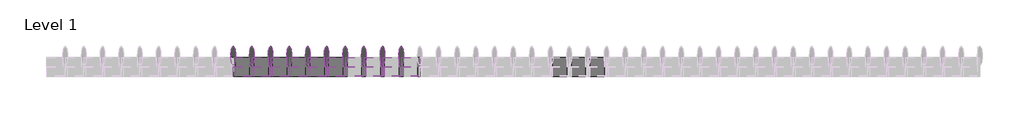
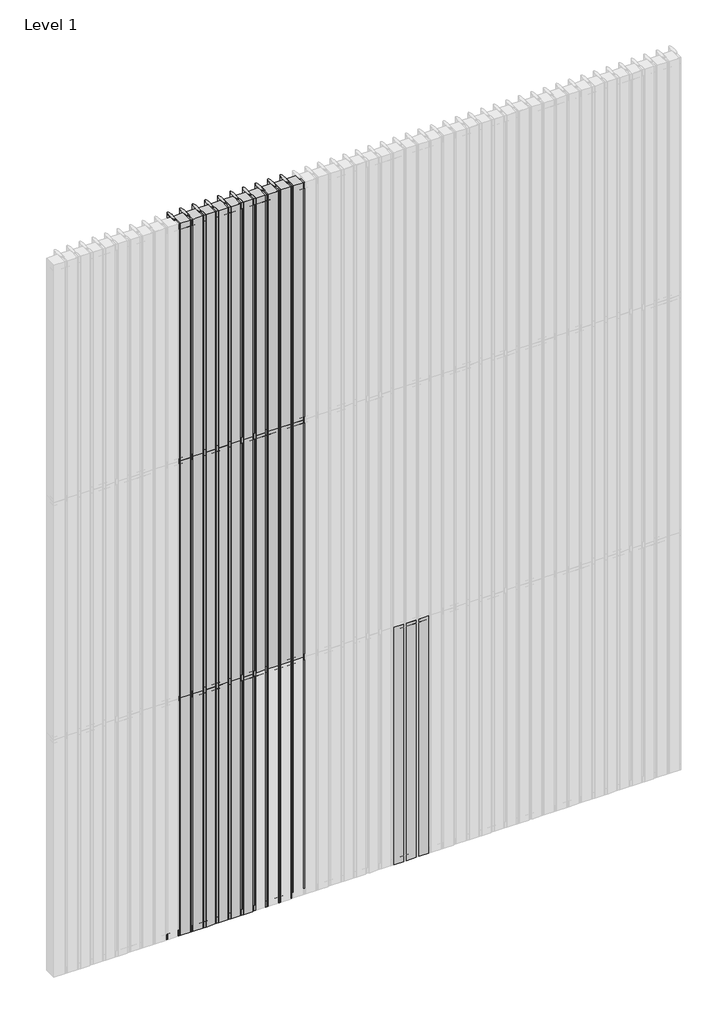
# One storey, part 2 of 6: 70 members, 59 plates.
"""IFC4 building model written with IfcOpenShell, lengths in millimetres."""

from ifc_helpers import new_model, si_unit, origin, place, context, project, spatial, transform, mapped, element, save
from components import rectangular_mullion_31e9810d, rectangular_mullion_cddbc660, rectangular_mullion_a3e25429, rectangular_mullion_ae434dd9, empty_system_panel_empty_de76a839, empty_system_panel_empty_5411477d, empty_system_panel_empty_c50988b4

model = new_model("IFC4")

# Units and contexts
model_context = context("Model", 3, world=origin())
ifc_project = project(units=[si_unit("LENGTHUNIT", "METRE", prefix="MILLI")], contexts=[model_context])

# Site, building, storey
site = spatial("IfcSite", under=ifc_project)
building = spatial("IfcBuilding", under=site)
storey = spatial("IfcBuildingStorey", under=building, Name="Level 1", Elevation=0.0)

# Members
placement = place(None, origin())
rectangular_mullion_shape = rectangular_mullion_31e9810d(model_context)
element("IfcMember", 1, ObjectType="Rectangular Mullion : RSen_21_CWM_blade - 100 ellips - 0°_gen_duco projects", at=placement, inside=storey, context=model_context, shape_type="MappedRepresentation", body=[
    mapped(rectangular_mullion_shape, transform((1900.0, 3000.0, 0.0), x_axis=(-1.0, 0.0, 0.0), y_axis=(0.0, 1.0, 0.0), z_axis=(0.0, 0.0, -1.0))),
])
element("IfcMember", 2, ObjectType="Rectangular Mullion : RSen_21_CWM_blade - 100 ellips - 0°_gen_duco projects", at=placement, inside=storey, context=model_context, shape_type="MappedRepresentation", body=[
    mapped(rectangular_mullion_shape, transform((1800.0, 3000.0, 0.0), x_axis=(-1.0, 0.0, 0.0), y_axis=(0.0, 1.0, 0.0), z_axis=(0.0, 0.0, -1.0))),
])
element("IfcMember", 3, ObjectType="Rectangular Mullion : RSen_21_CWM_blade - 100 ellips - 0°_gen_duco projects", at=placement, inside=storey, context=model_context, shape_type="MappedRepresentation", body=[
    mapped(rectangular_mullion_shape, transform((1700.0, 3000.0, 0.0), x_axis=(-1.0, 0.0, 0.0), y_axis=(0.0, 1.0, 0.0), z_axis=(0.0, 0.0, -1.0))),
])
element("IfcMember", 4, ObjectType="Rectangular Mullion : RSen_21_CWM_blade - 100 ellips - 0°_gen_duco projects", at=placement, inside=storey, context=model_context, shape_type="MappedRepresentation", body=[
    mapped(rectangular_mullion_shape, transform((1600.0, 3000.0, 0.0), x_axis=(-1.0, 0.0, 0.0), y_axis=(0.0, 1.0, 0.0), z_axis=(0.0, 0.0, -1.0))),
])
element("IfcMember", 5, ObjectType="Rectangular Mullion : RSen_21_CWM_blade - 100 ellips - 0°_gen_duco projects", at=placement, inside=storey, context=model_context, shape_type="MappedRepresentation", body=[
    mapped(rectangular_mullion_shape, transform((1500.0, 3000.0, 0.0), x_axis=(-1.0, 0.0, 0.0), y_axis=(0.0, 1.0, 0.0), z_axis=(0.0, 0.0, -1.0))),
])
element("IfcMember", 6, ObjectType="Rectangular Mullion : RSen_21_CWM_blade - 100 ellips - 0°_gen_duco projects", at=placement, inside=storey, context=model_context, shape_type="MappedRepresentation", body=[
    mapped(rectangular_mullion_shape, transform((1400.0, 3000.0, 0.0), x_axis=(-1.0, 0.0, 0.0), y_axis=(0.0, 1.0, 0.0), z_axis=(0.0, 0.0, -1.0))),
])
element("IfcMember", 7, ObjectType="Rectangular Mullion : RSen_21_CWM_blade - 100 ellips - 0°_gen_duco projects", at=placement, inside=storey, context=model_context, shape_type="MappedRepresentation", body=[
    mapped(rectangular_mullion_shape, transform((1300.0, 3000.0, 0.0), x_axis=(-1.0, 0.0, 0.0), y_axis=(0.0, 1.0, 0.0), z_axis=(0.0, 0.0, -1.0))),
])
element("IfcMember", 8, ObjectType="Rectangular Mullion : RSen_21_CWM_blade - 100 ellips - 0°_gen_duco projects", at=placement, inside=storey, context=model_context, shape_type="MappedRepresentation", body=[
    mapped(rectangular_mullion_shape, transform((1200.0, 3000.0, 0.0), x_axis=(-1.0, 0.0, 0.0), y_axis=(0.0, 1.0, 0.0), z_axis=(0.0, 0.0, -1.0))),
])
element("IfcMember", 9, ObjectType="Rectangular Mullion : RSen_21_CWM_blade - 100 ellips - 0°_gen_duco projects", at=placement, inside=storey, context=model_context, shape_type="MappedRepresentation", body=[
    mapped(rectangular_mullion_shape, transform((1100.0, 3000.0, 0.0), x_axis=(-1.0, 0.0, 0.0), y_axis=(0.0, 1.0, 0.0), z_axis=(0.0, 0.0, -1.0))),
])
element("IfcMember", 10, ObjectType="Rectangular Mullion : RSen_21_CWM_blade - 100 ellips - 0°_gen_duco projects", at=placement, inside=storey, context=model_context, shape_type="MappedRepresentation", body=[
    mapped(rectangular_mullion_shape, transform((1000.0, 3000.0, 0.0), x_axis=(-1.0, 0.0, 0.0), y_axis=(0.0, 1.0, 0.0), z_axis=(0.0, 0.0, -1.0))),
])
element("IfcMember", 11, ObjectType="Rectangular Mullion : RSen_21_CWM_blade - 100 ellips - 0°_gen_duco projects", at=placement, inside=storey, context=model_context, shape_type="MappedRepresentation", body=[
    mapped(rectangular_mullion_shape, transform((1900.0, 3000.0, 2000.0), x_axis=(-1.0, 0.0, 0.0), y_axis=(0.0, 1.0, 0.0), z_axis=(0.0, 0.0, -1.0))),
])
element("IfcMember", 12, ObjectType="Rectangular Mullion : RSen_21_CWM_blade - 100 ellips - 0°_gen_duco projects", at=placement, inside=storey, context=model_context, shape_type="MappedRepresentation", body=[
    mapped(rectangular_mullion_shape, transform((1800.0, 3000.0, 2000.0), x_axis=(-1.0, 0.0, 0.0), y_axis=(0.0, 1.0, 0.0), z_axis=(0.0, 0.0, -1.0))),
])
element("IfcMember", 13, ObjectType="Rectangular Mullion : RSen_21_CWM_blade - 100 ellips - 0°_gen_duco projects", at=placement, inside=storey, context=model_context, shape_type="MappedRepresentation", body=[
    mapped(rectangular_mullion_shape, transform((1700.0, 3000.0, 2000.0), x_axis=(-1.0, 0.0, 0.0), y_axis=(0.0, 1.0, 0.0), z_axis=(0.0, 0.0, -1.0))),
])
element("IfcMember", 14, ObjectType="Rectangular Mullion : RSen_21_CWM_blade - 100 ellips - 0°_gen_duco projects", at=placement, inside=storey, context=model_context, shape_type="MappedRepresentation", body=[
    mapped(rectangular_mullion_shape, transform((1600.0, 3000.0, 2000.0), x_axis=(-1.0, 0.0, 0.0), y_axis=(0.0, 1.0, 0.0), z_axis=(0.0, 0.0, -1.0))),
])
element("IfcMember", 15, ObjectType="Rectangular Mullion : RSen_21_CWM_blade - 100 ellips - 0°_gen_duco projects", at=placement, inside=storey, context=model_context, shape_type="MappedRepresentation", body=[
    mapped(rectangular_mullion_shape, transform((1500.0, 3000.0, 2000.0), x_axis=(-1.0, 0.0, 0.0), y_axis=(0.0, 1.0, 0.0), z_axis=(0.0, 0.0, -1.0))),
])
element("IfcMember", 16, ObjectType="Rectangular Mullion : RSen_21_CWM_blade - 100 ellips - 0°_gen_duco projects", at=placement, inside=storey, context=model_context, shape_type="MappedRepresentation", body=[
    mapped(rectangular_mullion_shape, transform((1400.0, 3000.0, 2000.0), x_axis=(-1.0, 0.0, 0.0), y_axis=(0.0, 1.0, 0.0), z_axis=(0.0, 0.0, -1.0))),
])
element("IfcMember", 17, ObjectType="Rectangular Mullion : RSen_21_CWM_blade - 100 ellips - 0°_gen_duco projects", at=placement, inside=storey, context=model_context, shape_type="MappedRepresentation", body=[
    mapped(rectangular_mullion_shape, transform((1300.0, 3000.0, 2000.0), x_axis=(-1.0, 0.0, 0.0), y_axis=(0.0, 1.0, 0.0), z_axis=(0.0, 0.0, -1.0))),
])
element("IfcMember", 18, ObjectType="Rectangular Mullion : RSen_21_CWM_blade - 100 ellips - 0°_gen_duco projects", at=placement, inside=storey, context=model_context, shape_type="MappedRepresentation", body=[
    mapped(rectangular_mullion_shape, transform((1200.0, 3000.0, 2000.0), x_axis=(-1.0, 0.0, 0.0), y_axis=(0.0, 1.0, 0.0), z_axis=(0.0, 0.0, -1.0))),
])
element("IfcMember", 19, ObjectType="Rectangular Mullion : RSen_21_CWM_blade - 100 ellips - 0°_gen_duco projects", at=placement, inside=storey, context=model_context, shape_type="MappedRepresentation", body=[
    mapped(rectangular_mullion_shape, transform((1100.0, 3000.0, 2000.0), x_axis=(-1.0, 0.0, 0.0), y_axis=(0.0, 1.0, 0.0), z_axis=(0.0, 0.0, -1.0))),
])
element("IfcMember", 20, ObjectType="Rectangular Mullion : RSen_21_CWM_blade - 100 ellips - 0°_gen_duco projects", at=placement, inside=storey, context=model_context, shape_type="MappedRepresentation", body=[
    mapped(rectangular_mullion_shape, transform((1000.0, 3000.0, 2000.0), x_axis=(-1.0, 0.0, 0.0), y_axis=(0.0, 1.0, 0.0), z_axis=(0.0, 0.0, -1.0))),
])
element("IfcMember", 21, ObjectType="Rectangular Mullion : RSen_21_CWM_blade - 100 ellips - 0°_gen_duco projects", at=placement, inside=storey, context=model_context, shape_type="MappedRepresentation", body=[
    mapped(rectangular_mullion_shape, transform((1900.0, 3000.0, 4000.0), x_axis=(-1.0, 0.0, 0.0), y_axis=(0.0, 1.0, 0.0), z_axis=(0.0, 0.0, -1.0))),
])
element("IfcMember", 22, ObjectType="Rectangular Mullion : RSen_21_CWM_blade - 100 ellips - 0°_gen_duco projects", at=placement, inside=storey, context=model_context, shape_type="MappedRepresentation", body=[
    mapped(rectangular_mullion_shape, transform((1800.0, 3000.0, 4000.0), x_axis=(-1.0, 0.0, 0.0), y_axis=(0.0, 1.0, 0.0), z_axis=(0.0, 0.0, -1.0))),
])
element("IfcMember", 23, ObjectType="Rectangular Mullion : RSen_21_CWM_blade - 100 ellips - 0°_gen_duco projects", at=placement, inside=storey, context=model_context, shape_type="MappedRepresentation", body=[
    mapped(rectangular_mullion_shape, transform((1700.0, 3000.0, 4000.0), x_axis=(-1.0, 0.0, 0.0), y_axis=(0.0, 1.0, 0.0), z_axis=(0.0, 0.0, -1.0))),
])
element("IfcMember", 24, ObjectType="Rectangular Mullion : RSen_21_CWM_blade - 100 ellips - 0°_gen_duco projects", at=placement, inside=storey, context=model_context, shape_type="MappedRepresentation", body=[
    mapped(rectangular_mullion_shape, transform((1600.0, 3000.0, 4000.0), x_axis=(-1.0, 0.0, 0.0), y_axis=(0.0, 1.0, 0.0), z_axis=(0.0, 0.0, -1.0))),
])
element("IfcMember", 25, ObjectType="Rectangular Mullion : RSen_21_CWM_blade - 100 ellips - 0°_gen_duco projects", at=placement, inside=storey, context=model_context, shape_type="MappedRepresentation", body=[
    mapped(rectangular_mullion_shape, transform((1500.0, 3000.0, 4000.0), x_axis=(-1.0, 0.0, 0.0), y_axis=(0.0, 1.0, 0.0), z_axis=(0.0, 0.0, -1.0))),
])
element("IfcMember", 26, ObjectType="Rectangular Mullion : RSen_21_CWM_blade - 100 ellips - 0°_gen_duco projects", at=placement, inside=storey, context=model_context, shape_type="MappedRepresentation", body=[
    mapped(rectangular_mullion_shape, transform((1400.0, 3000.0, 4000.0), x_axis=(-1.0, 0.0, 0.0), y_axis=(0.0, 1.0, 0.0), z_axis=(0.0, 0.0, -1.0))),
])
element("IfcMember", 27, ObjectType="Rectangular Mullion : RSen_21_CWM_blade - 100 ellips - 0°_gen_duco projects", at=placement, inside=storey, context=model_context, shape_type="MappedRepresentation", body=[
    mapped(rectangular_mullion_shape, transform((1300.0, 3000.0, 4000.0), x_axis=(-1.0, 0.0, 0.0), y_axis=(0.0, 1.0, 0.0), z_axis=(0.0, 0.0, -1.0))),
])
element("IfcMember", 28, ObjectType="Rectangular Mullion : RSen_21_CWM_blade - 100 ellips - 0°_gen_duco projects", at=placement, inside=storey, context=model_context, shape_type="MappedRepresentation", body=[
    mapped(rectangular_mullion_shape, transform((1200.0, 3000.0, 4000.0), x_axis=(-1.0, 0.0, 0.0), y_axis=(0.0, 1.0, 0.0), z_axis=(0.0, 0.0, -1.0))),
])
element("IfcMember", 29, ObjectType="Rectangular Mullion : RSen_21_CWM_blade - 100 ellips - 0°_gen_duco projects", at=placement, inside=storey, context=model_context, shape_type="MappedRepresentation", body=[
    mapped(rectangular_mullion_shape, transform((1100.0, 3000.0, 4000.0), x_axis=(-1.0, 0.0, 0.0), y_axis=(0.0, 1.0, 0.0), z_axis=(0.0, 0.0, -1.0))),
])
element("IfcMember", 30, ObjectType="Rectangular Mullion : RSen_21_CWM_blade - 100 ellips - 0°_gen_duco projects", at=placement, inside=storey, context=model_context, shape_type="MappedRepresentation", body=[
    mapped(rectangular_mullion_shape, transform((1000.0, 3000.0, 4000.0), x_axis=(-1.0, 0.0, 0.0), y_axis=(0.0, 1.0, 0.0), z_axis=(0.0, 0.0, -1.0))),
])
rectangular_mullion_2_shape = rectangular_mullion_cddbc660(model_context)
element("IfcMember", 31, ObjectType="Rectangular Mullion : RSen_21_CWM_support profile 50x50 - left_gen_duco projects", at=placement, inside=storey, context=model_context, shape_type="MappedRepresentation", body=[
    mapped(rectangular_mullion_2_shape, transform((1900.0, 3000.0, 6000.0), x_axis=(0.0, 0.0, 1.0), y_axis=(0.0, 1.0, 0.0), z_axis=(-1.0, 0.0, 0.0))),
])
element("IfcMember", 32, ObjectType="Rectangular Mullion : RSen_21_CWM_support profile 50x50 - left_gen_duco projects", at=placement, inside=storey, context=model_context, shape_type="MappedRepresentation", body=[
    mapped(rectangular_mullion_2_shape, transform((1800.0, 3000.0, 6000.0), x_axis=(0.0, 0.0, 1.0), y_axis=(0.0, 1.0, 0.0), z_axis=(-1.0, 0.0, 0.0))),
])
element("IfcMember", 33, ObjectType="Rectangular Mullion : RSen_21_CWM_support profile 50x50 - left_gen_duco projects", at=placement, inside=storey, context=model_context, shape_type="MappedRepresentation", body=[
    mapped(rectangular_mullion_2_shape, transform((1700.0, 3000.0, 6000.0), x_axis=(0.0, 0.0, 1.0), y_axis=(0.0, 1.0, 0.0), z_axis=(-1.0, 0.0, 0.0))),
])
element("IfcMember", 34, ObjectType="Rectangular Mullion : RSen_21_CWM_support profile 50x50 - left_gen_duco projects", at=placement, inside=storey, context=model_context, shape_type="MappedRepresentation", body=[
    mapped(rectangular_mullion_2_shape, transform((1600.0, 3000.0, 6000.0), x_axis=(0.0, 0.0, 1.0), y_axis=(0.0, 1.0, 0.0), z_axis=(-1.0, 0.0, 0.0))),
])
element("IfcMember", 35, ObjectType="Rectangular Mullion : RSen_21_CWM_support profile 50x50 - left_gen_duco projects", at=placement, inside=storey, context=model_context, shape_type="MappedRepresentation", body=[
    mapped(rectangular_mullion_2_shape, transform((1500.0, 3000.0, 6000.0), x_axis=(0.0, 0.0, 1.0), y_axis=(0.0, 1.0, 0.0), z_axis=(-1.0, 0.0, 0.0))),
])
element("IfcMember", 36, ObjectType="Rectangular Mullion : RSen_21_CWM_support profile 50x50 - left_gen_duco projects", at=placement, inside=storey, context=model_context, shape_type="MappedRepresentation", body=[
    mapped(rectangular_mullion_2_shape, transform((1400.0, 3000.0, 6000.0), x_axis=(0.0, 0.0, 1.0), y_axis=(0.0, 1.0, 0.0), z_axis=(-1.0, 0.0, 0.0))),
])
element("IfcMember", 37, ObjectType="Rectangular Mullion : RSen_21_CWM_support profile 50x50 - left_gen_duco projects", at=placement, inside=storey, context=model_context, shape_type="MappedRepresentation", body=[
    mapped(rectangular_mullion_2_shape, transform((1300.0, 3000.0, 6000.0), x_axis=(0.0, 0.0, 1.0), y_axis=(0.0, 1.0, 0.0), z_axis=(-1.0, 0.0, 0.0))),
])
element("IfcMember", 38, ObjectType="Rectangular Mullion : RSen_21_CWM_support profile 50x50 - left_gen_duco projects", at=placement, inside=storey, context=model_context, shape_type="MappedRepresentation", body=[
    mapped(rectangular_mullion_2_shape, transform((1200.0, 3000.0, 6000.0), x_axis=(0.0, 0.0, 1.0), y_axis=(0.0, 1.0, 0.0), z_axis=(-1.0, 0.0, 0.0))),
])
element("IfcMember", 39, ObjectType="Rectangular Mullion : RSen_21_CWM_support profile 50x50 - left_gen_duco projects", at=placement, inside=storey, context=model_context, shape_type="MappedRepresentation", body=[
    mapped(rectangular_mullion_2_shape, transform((1100.0, 3000.0, 6000.0), x_axis=(0.0, 0.0, 1.0), y_axis=(0.0, 1.0, 0.0), z_axis=(-1.0, 0.0, 0.0))),
])
element("IfcMember", 40, ObjectType="Rectangular Mullion : RSen_21_CWM_support profile 50x50 - left_gen_duco projects", at=placement, inside=storey, context=model_context, shape_type="MappedRepresentation", body=[
    mapped(rectangular_mullion_2_shape, transform((1000.0, 3000.0, 6000.0), x_axis=(0.0, 0.0, 1.0), y_axis=(0.0, 1.0, 0.0), z_axis=(-1.0, 0.0, 0.0))),
])
rectangular_mullion_3_shape = rectangular_mullion_a3e25429(model_context)
element("IfcMember", 41, ObjectType="Rectangular Mullion : RSen_21_CWM_support profile 50x50 - right_gen_duco projects", at=placement, inside=storey, context=model_context, shape_type="MappedRepresentation", body=[
    mapped(rectangular_mullion_3_shape, transform((1900.0, 3000.0, 0.0), x_axis=(0.0, 0.0, -1.0), y_axis=(0.0, 1.0, 0.0), z_axis=(1.0, 0.0, 0.0))),
])
element("IfcMember", 42, ObjectType="Rectangular Mullion : RSen_21_CWM_support profile 50x50 - right_gen_duco projects", at=placement, inside=storey, context=model_context, shape_type="MappedRepresentation", body=[
    mapped(rectangular_mullion_3_shape, transform((1800.0, 3000.0, 0.0), x_axis=(0.0, 0.0, -1.0), y_axis=(0.0, 1.0, 0.0), z_axis=(1.0, 0.0, 0.0))),
])
element("IfcMember", 43, ObjectType="Rectangular Mullion : RSen_21_CWM_support profile 50x50 - right_gen_duco projects", at=placement, inside=storey, context=model_context, shape_type="MappedRepresentation", body=[
    mapped(rectangular_mullion_3_shape, transform((1700.0, 3000.0, 0.0), x_axis=(0.0, 0.0, -1.0), y_axis=(0.0, 1.0, 0.0), z_axis=(1.0, 0.0, 0.0))),
])
element("IfcMember", 44, ObjectType="Rectangular Mullion : RSen_21_CWM_support profile 50x50 - right_gen_duco projects", at=placement, inside=storey, context=model_context, shape_type="MappedRepresentation", body=[
    mapped(rectangular_mullion_3_shape, transform((1600.0, 3000.0, 0.0), x_axis=(0.0, 0.0, -1.0), y_axis=(0.0, 1.0, 0.0), z_axis=(1.0, 0.0, 0.0))),
])
element("IfcMember", 45, ObjectType="Rectangular Mullion : RSen_21_CWM_support profile 50x50 - right_gen_duco projects", at=placement, inside=storey, context=model_context, shape_type="MappedRepresentation", body=[
    mapped(rectangular_mullion_3_shape, transform((1500.0, 3000.0, 0.0), x_axis=(0.0, 0.0, -1.0), y_axis=(0.0, 1.0, 0.0), z_axis=(1.0, 0.0, 0.0))),
])
element("IfcMember", 46, ObjectType="Rectangular Mullion : RSen_21_CWM_support profile 50x50 - right_gen_duco projects", at=placement, inside=storey, context=model_context, shape_type="MappedRepresentation", body=[
    mapped(rectangular_mullion_3_shape, transform((1400.0, 3000.0, 0.0), x_axis=(0.0, 0.0, -1.0), y_axis=(0.0, 1.0, 0.0), z_axis=(1.0, 0.0, 0.0))),
])
element("IfcMember", 47, ObjectType="Rectangular Mullion : RSen_21_CWM_support profile 50x50 - right_gen_duco projects", at=placement, inside=storey, context=model_context, shape_type="MappedRepresentation", body=[
    mapped(rectangular_mullion_3_shape, transform((1300.0, 3000.0, 0.0), x_axis=(0.0, 0.0, -1.0), y_axis=(0.0, 1.0, 0.0), z_axis=(1.0, 0.0, 0.0))),
])
element("IfcMember", 48, ObjectType="Rectangular Mullion : RSen_21_CWM_support profile 50x50 - right_gen_duco projects", at=placement, inside=storey, context=model_context, shape_type="MappedRepresentation", body=[
    mapped(rectangular_mullion_3_shape, transform((1200.0, 3000.0, 0.0), x_axis=(0.0, 0.0, -1.0), y_axis=(0.0, 1.0, 0.0), z_axis=(1.0, 0.0, 0.0))),
])
element("IfcMember", 49, ObjectType="Rectangular Mullion : RSen_21_CWM_support profile 50x50 - right_gen_duco projects", at=placement, inside=storey, context=model_context, shape_type="MappedRepresentation", body=[
    mapped(rectangular_mullion_3_shape, transform((1100.0, 3000.0, 0.0), x_axis=(0.0, 0.0, -1.0), y_axis=(0.0, 1.0, 0.0), z_axis=(1.0, 0.0, 0.0))),
])
element("IfcMember", 50, ObjectType="Rectangular Mullion : RSen_21_CWM_support profile 50x50 - right_gen_duco projects", at=placement, inside=storey, context=model_context, shape_type="MappedRepresentation", body=[
    mapped(rectangular_mullion_3_shape, transform((1000.0, 3000.0, 0.0), x_axis=(0.0, 0.0, -1.0), y_axis=(0.0, 1.0, 0.0), z_axis=(1.0, 0.0, 0.0))),
])
rectangular_mullion_4_shape = rectangular_mullion_ae434dd9(model_context)
element("IfcMember", 51, ObjectType="Rectangular Mullion : RSen_21_CWM_support profile 50x50_gen_duco projects", at=placement, inside=storey, context=model_context, shape_type="MappedRepresentation", body=[
    mapped(rectangular_mullion_4_shape, transform((1900.0, 3000.0, 2000.0), x_axis=(0.0, 0.0, 1.0), y_axis=(0.0, 1.0, 0.0), z_axis=(-1.0, 0.0, 0.0))),
])
element("IfcMember", 52, ObjectType="Rectangular Mullion : RSen_21_CWM_support profile 50x50_gen_duco projects", at=placement, inside=storey, context=model_context, shape_type="MappedRepresentation", body=[
    mapped(rectangular_mullion_4_shape, transform((1800.0, 3000.0, 2000.0), x_axis=(0.0, 0.0, 1.0), y_axis=(0.0, 1.0, 0.0), z_axis=(-1.0, 0.0, 0.0))),
])
element("IfcMember", 53, ObjectType="Rectangular Mullion : RSen_21_CWM_support profile 50x50_gen_duco projects", at=placement, inside=storey, context=model_context, shape_type="MappedRepresentation", body=[
    mapped(rectangular_mullion_4_shape, transform((1700.0, 3000.0, 2000.0), x_axis=(0.0, 0.0, 1.0), y_axis=(0.0, 1.0, 0.0), z_axis=(-1.0, 0.0, 0.0))),
])
element("IfcMember", 54, ObjectType="Rectangular Mullion : RSen_21_CWM_support profile 50x50_gen_duco projects", at=placement, inside=storey, context=model_context, shape_type="MappedRepresentation", body=[
    mapped(rectangular_mullion_4_shape, transform((1600.0, 3000.0, 2000.0), x_axis=(0.0, 0.0, 1.0), y_axis=(0.0, 1.0, 0.0), z_axis=(-1.0, 0.0, 0.0))),
])
element("IfcMember", 55, ObjectType="Rectangular Mullion : RSen_21_CWM_support profile 50x50_gen_duco projects", at=placement, inside=storey, context=model_context, shape_type="MappedRepresentation", body=[
    mapped(rectangular_mullion_4_shape, transform((1500.0, 3000.0, 2000.0), x_axis=(0.0, 0.0, 1.0), y_axis=(0.0, 1.0, 0.0), z_axis=(-1.0, 0.0, 0.0))),
])
element("IfcMember", 56, ObjectType="Rectangular Mullion : RSen_21_CWM_support profile 50x50_gen_duco projects", at=placement, inside=storey, context=model_context, shape_type="MappedRepresentation", body=[
    mapped(rectangular_mullion_4_shape, transform((1400.0, 3000.0, 2000.0), x_axis=(0.0, 0.0, 1.0), y_axis=(0.0, 1.0, 0.0), z_axis=(-1.0, 0.0, 0.0))),
])
element("IfcMember", 57, ObjectType="Rectangular Mullion : RSen_21_CWM_support profile 50x50_gen_duco projects", at=placement, inside=storey, context=model_context, shape_type="MappedRepresentation", body=[
    mapped(rectangular_mullion_4_shape, transform((1300.0, 3000.0, 2000.0), x_axis=(0.0, 0.0, 1.0), y_axis=(0.0, 1.0, 0.0), z_axis=(-1.0, 0.0, 0.0))),
])
element("IfcMember", 58, ObjectType="Rectangular Mullion : RSen_21_CWM_support profile 50x50_gen_duco projects", at=placement, inside=storey, context=model_context, shape_type="MappedRepresentation", body=[
    mapped(rectangular_mullion_4_shape, transform((1200.0, 3000.0, 2000.0), x_axis=(0.0, 0.0, 1.0), y_axis=(0.0, 1.0, 0.0), z_axis=(-1.0, 0.0, 0.0))),
])
element("IfcMember", 59, ObjectType="Rectangular Mullion : RSen_21_CWM_support profile 50x50_gen_duco projects", at=placement, inside=storey, context=model_context, shape_type="MappedRepresentation", body=[
    mapped(rectangular_mullion_4_shape, transform((1100.0, 3000.0, 2000.0), x_axis=(0.0, 0.0, 1.0), y_axis=(0.0, 1.0, 0.0), z_axis=(-1.0, 0.0, 0.0))),
])
element("IfcMember", 60, ObjectType="Rectangular Mullion : RSen_21_CWM_support profile 50x50_gen_duco projects", at=placement, inside=storey, context=model_context, shape_type="MappedRepresentation", body=[
    mapped(rectangular_mullion_4_shape, transform((1000.0, 3000.0, 2000.0), x_axis=(0.0, 0.0, 1.0), y_axis=(0.0, 1.0, 0.0), z_axis=(-1.0, 0.0, 0.0))),
])
element("IfcMember", 61, ObjectType="Rectangular Mullion : RSen_21_CWM_support profile 50x50_gen_duco projects", at=placement, inside=storey, context=model_context, shape_type="MappedRepresentation", body=[
    mapped(rectangular_mullion_4_shape, transform((1900.0, 3000.0, 4000.0), x_axis=(0.0, 0.0, 1.0), y_axis=(0.0, 1.0, 0.0), z_axis=(-1.0, 0.0, 0.0))),
])
element("IfcMember", 62, ObjectType="Rectangular Mullion : RSen_21_CWM_support profile 50x50_gen_duco projects", at=placement, inside=storey, context=model_context, shape_type="MappedRepresentation", body=[
    mapped(rectangular_mullion_4_shape, transform((1800.0, 3000.0, 4000.0), x_axis=(0.0, 0.0, 1.0), y_axis=(0.0, 1.0, 0.0), z_axis=(-1.0, 0.0, 0.0))),
])
element("IfcMember", 63, ObjectType="Rectangular Mullion : RSen_21_CWM_support profile 50x50_gen_duco projects", at=placement, inside=storey, context=model_context, shape_type="MappedRepresentation", body=[
    mapped(rectangular_mullion_4_shape, transform((1700.0, 3000.0, 4000.0), x_axis=(0.0, 0.0, 1.0), y_axis=(0.0, 1.0, 0.0), z_axis=(-1.0, 0.0, 0.0))),
])
element("IfcMember", 64, ObjectType="Rectangular Mullion : RSen_21_CWM_support profile 50x50_gen_duco projects", at=placement, inside=storey, context=model_context, shape_type="MappedRepresentation", body=[
    mapped(rectangular_mullion_4_shape, transform((1600.0, 3000.0, 4000.0), x_axis=(0.0, 0.0, 1.0), y_axis=(0.0, 1.0, 0.0), z_axis=(-1.0, 0.0, 0.0))),
])
element("IfcMember", 65, ObjectType="Rectangular Mullion : RSen_21_CWM_support profile 50x50_gen_duco projects", at=placement, inside=storey, context=model_context, shape_type="MappedRepresentation", body=[
    mapped(rectangular_mullion_4_shape, transform((1500.0, 3000.0, 4000.0), x_axis=(0.0, 0.0, 1.0), y_axis=(0.0, 1.0, 0.0), z_axis=(-1.0, 0.0, 0.0))),
])
element("IfcMember", 66, ObjectType="Rectangular Mullion : RSen_21_CWM_support profile 50x50_gen_duco projects", at=placement, inside=storey, context=model_context, shape_type="MappedRepresentation", body=[
    mapped(rectangular_mullion_4_shape, transform((1400.0, 3000.0, 4000.0), x_axis=(0.0, 0.0, 1.0), y_axis=(0.0, 1.0, 0.0), z_axis=(-1.0, 0.0, 0.0))),
])
element("IfcMember", 67, ObjectType="Rectangular Mullion : RSen_21_CWM_support profile 50x50_gen_duco projects", at=placement, inside=storey, context=model_context, shape_type="MappedRepresentation", body=[
    mapped(rectangular_mullion_4_shape, transform((1300.0, 3000.0, 4000.0), x_axis=(0.0, 0.0, 1.0), y_axis=(0.0, 1.0, 0.0), z_axis=(-1.0, 0.0, 0.0))),
])
element("IfcMember", 68, ObjectType="Rectangular Mullion : RSen_21_CWM_support profile 50x50_gen_duco projects", at=placement, inside=storey, context=model_context, shape_type="MappedRepresentation", body=[
    mapped(rectangular_mullion_4_shape, transform((1200.0, 3000.0, 4000.0), x_axis=(0.0, 0.0, 1.0), y_axis=(0.0, 1.0, 0.0), z_axis=(-1.0, 0.0, 0.0))),
])
element("IfcMember", 69, ObjectType="Rectangular Mullion : RSen_21_CWM_support profile 50x50_gen_duco projects", at=placement, inside=storey, context=model_context, shape_type="MappedRepresentation", body=[
    mapped(rectangular_mullion_4_shape, transform((1100.0, 3000.0, 4000.0), x_axis=(0.0, 0.0, 1.0), y_axis=(0.0, 1.0, 0.0), z_axis=(-1.0, 0.0, 0.0))),
])
element("IfcMember", 70, ObjectType="Rectangular Mullion : RSen_21_CWM_support profile 50x50_gen_duco projects", at=placement, inside=storey, context=model_context, shape_type="MappedRepresentation", body=[
    mapped(rectangular_mullion_4_shape, transform((1000.0, 3000.0, 4000.0), x_axis=(0.0, 0.0, 1.0), y_axis=(0.0, 1.0, 0.0), z_axis=(-1.0, 0.0, 0.0))),
])

# Plates
empty_system_panel_empty_shape = empty_system_panel_empty_de76a839(model_context)
element("IfcPlate", 71, ObjectType="Empty System Panel : Empty", at=placement, inside=storey, context=model_context, shape_type="MappedRepresentation", body=[
    mapped(empty_system_panel_empty_shape, transform((2950.0, 3000.0, 0.0), x_axis=(-1.0, 0.0, 0.0), y_axis=(0.0, -1.0, 0.0), z_axis=(0.0, 0.0, 1.0))),
])
element("IfcPlate", 72, ObjectType="Empty System Panel : Empty", at=placement, inside=storey, context=model_context, shape_type="MappedRepresentation", body=[
    mapped(empty_system_panel_empty_shape, transform((2850.0, 3000.0, 0.0), x_axis=(-1.0, 0.0, 0.0), y_axis=(0.0, -1.0, 0.0), z_axis=(0.0, 0.0, 1.0))),
])
element("IfcPlate", 73, ObjectType="Empty System Panel : Empty", at=placement, inside=storey, context=model_context, shape_type="MappedRepresentation", body=[
    mapped(empty_system_panel_empty_shape, transform((2750.0, 3000.0, 0.0), x_axis=(-1.0, 0.0, 0.0), y_axis=(0.0, -1.0, 0.0), z_axis=(0.0, 0.0, 1.0))),
])
element("IfcPlate", 74, ObjectType="Empty System Panel : Empty", at=placement, inside=storey, context=model_context, shape_type="MappedRepresentation", body=[
    mapped(empty_system_panel_empty_shape, transform((1550.0, 3000.0, 0.0), x_axis=(-1.0, 0.0, 0.0), y_axis=(0.0, -1.0, 0.0), z_axis=(0.0, 0.0, 1.0))),
])
element("IfcPlate", 75, ObjectType="Empty System Panel : Empty", at=placement, inside=storey, context=model_context, shape_type="MappedRepresentation", body=[
    mapped(empty_system_panel_empty_shape, transform((1450.0, 3000.0, 0.0), x_axis=(-1.0, 0.0, 0.0), y_axis=(0.0, -1.0, 0.0), z_axis=(0.0, 0.0, 1.0))),
])
element("IfcPlate", 76, ObjectType="Empty System Panel : Empty", at=placement, inside=storey, context=model_context, shape_type="MappedRepresentation", body=[
    mapped(empty_system_panel_empty_shape, transform((1350.0, 3000.0, 0.0), x_axis=(-1.0, 0.0, 0.0), y_axis=(0.0, -1.0, 0.0), z_axis=(0.0, 0.0, 1.0))),
])
element("IfcPlate", 77, ObjectType="Empty System Panel : Empty", at=placement, inside=storey, context=model_context, shape_type="MappedRepresentation", body=[
    mapped(empty_system_panel_empty_shape, transform((1250.0, 3000.0, 0.0), x_axis=(-1.0, 0.0, 0.0), y_axis=(0.0, -1.0, 0.0), z_axis=(0.0, 0.0, 1.0))),
])
element("IfcPlate", 78, ObjectType="Empty System Panel : Empty", at=placement, inside=storey, context=model_context, shape_type="MappedRepresentation", body=[
    mapped(empty_system_panel_empty_shape, transform((1150.0, 3000.0, 0.0), x_axis=(-1.0, 0.0, 0.0), y_axis=(0.0, -1.0, 0.0), z_axis=(0.0, 0.0, 1.0))),
])
element("IfcPlate", 79, ObjectType="Empty System Panel : Empty", at=placement, inside=storey, context=model_context, shape_type="MappedRepresentation", body=[
    mapped(empty_system_panel_empty_shape, transform((1050.0, 3000.0, 0.0), x_axis=(-1.0, 0.0, 0.0), y_axis=(0.0, -1.0, 0.0), z_axis=(0.0, 0.0, 1.0))),
])
element("IfcPlate", 80, ObjectType="Empty System Panel : Empty", at=placement, inside=storey, context=model_context, shape_type="MappedRepresentation", body=[
    mapped(empty_system_panel_empty_shape, transform((1950.0, 3000.0, 2000.0), x_axis=(-1.0, 0.0, 0.0), y_axis=(0.0, -1.0, 0.0), z_axis=(0.0, 0.0, 1.0))),
])
element("IfcPlate", 81, ObjectType="Empty System Panel : Empty", at=placement, inside=storey, context=model_context, shape_type="MappedRepresentation", body=[
    mapped(empty_system_panel_empty_shape, transform((1850.0, 3000.0, 2000.0), x_axis=(-1.0, 0.0, 0.0), y_axis=(0.0, -1.0, 0.0), z_axis=(0.0, 0.0, 1.0))),
])
element("IfcPlate", 82, ObjectType="Empty System Panel : Empty", at=placement, inside=storey, context=model_context, shape_type="MappedRepresentation", body=[
    mapped(empty_system_panel_empty_shape, transform((1750.0, 3000.0, 2000.0), x_axis=(-1.0, 0.0, 0.0), y_axis=(0.0, -1.0, 0.0), z_axis=(0.0, 0.0, 1.0))),
])
element("IfcPlate", 83, ObjectType="Empty System Panel : Empty", at=placement, inside=storey, context=model_context, shape_type="MappedRepresentation", body=[
    mapped(empty_system_panel_empty_shape, transform((1650.0, 3000.0, 2000.0), x_axis=(-1.0, 0.0, 0.0), y_axis=(0.0, -1.0, 0.0), z_axis=(0.0, 0.0, 1.0))),
])
element("IfcPlate", 84, ObjectType="Empty System Panel : Empty", at=placement, inside=storey, context=model_context, shape_type="MappedRepresentation", body=[
    mapped(empty_system_panel_empty_shape, transform((1550.0, 3000.0, 2000.0), x_axis=(-1.0, 0.0, 0.0), y_axis=(0.0, -1.0, 0.0), z_axis=(0.0, 0.0, 1.0))),
])
element("IfcPlate", 85, ObjectType="Empty System Panel : Empty", at=placement, inside=storey, context=model_context, shape_type="MappedRepresentation", body=[
    mapped(empty_system_panel_empty_shape, transform((1450.0, 3000.0, 2000.0), x_axis=(-1.0, 0.0, 0.0), y_axis=(0.0, -1.0, 0.0), z_axis=(0.0, 0.0, 1.0))),
])
element("IfcPlate", 86, ObjectType="Empty System Panel : Empty", at=placement, inside=storey, context=model_context, shape_type="MappedRepresentation", body=[
    mapped(empty_system_panel_empty_shape, transform((1350.0, 3000.0, 2000.0), x_axis=(-1.0, 0.0, 0.0), y_axis=(0.0, -1.0, 0.0), z_axis=(0.0, 0.0, 1.0))),
])
element("IfcPlate", 87, ObjectType="Empty System Panel : Empty", at=placement, inside=storey, context=model_context, shape_type="MappedRepresentation", body=[
    mapped(empty_system_panel_empty_shape, transform((1250.0, 3000.0, 2000.0), x_axis=(-1.0, 0.0, 0.0), y_axis=(0.0, -1.0, 0.0), z_axis=(0.0, 0.0, 1.0))),
])
element("IfcPlate", 88, ObjectType="Empty System Panel : Empty", at=placement, inside=storey, context=model_context, shape_type="MappedRepresentation", body=[
    mapped(empty_system_panel_empty_shape, transform((1150.0, 3000.0, 2000.0), x_axis=(-1.0, 0.0, 0.0), y_axis=(0.0, -1.0, 0.0), z_axis=(0.0, 0.0, 1.0))),
])
element("IfcPlate", 89, ObjectType="Empty System Panel : Empty", at=placement, inside=storey, context=model_context, shape_type="MappedRepresentation", body=[
    mapped(empty_system_panel_empty_shape, transform((1050.0, 3000.0, 2000.0), x_axis=(-1.0, 0.0, 0.0), y_axis=(0.0, -1.0, 0.0), z_axis=(0.0, 0.0, 1.0))),
])
element("IfcPlate", 90, ObjectType="Empty System Panel : Empty", at=placement, inside=storey, context=model_context, shape_type="MappedRepresentation", body=[
    mapped(empty_system_panel_empty_shape, transform((1950.0, 3000.0, 4000.0), x_axis=(-1.0, 0.0, 0.0), y_axis=(0.0, -1.0, 0.0), z_axis=(0.0, 0.0, 1.0))),
])
element("IfcPlate", 91, ObjectType="Empty System Panel : Empty", at=placement, inside=storey, context=model_context, shape_type="MappedRepresentation", body=[
    mapped(empty_system_panel_empty_shape, transform((1850.0, 3000.0, 4000.0), x_axis=(-1.0, 0.0, 0.0), y_axis=(0.0, -1.0, 0.0), z_axis=(0.0, 0.0, 1.0))),
])
element("IfcPlate", 92, ObjectType="Empty System Panel : Empty", at=placement, inside=storey, context=model_context, shape_type="MappedRepresentation", body=[
    mapped(empty_system_panel_empty_shape, transform((1750.0, 3000.0, 4000.0), x_axis=(-1.0, 0.0, 0.0), y_axis=(0.0, -1.0, 0.0), z_axis=(0.0, 0.0, 1.0))),
])
element("IfcPlate", 93, ObjectType="Empty System Panel : Empty", at=placement, inside=storey, context=model_context, shape_type="MappedRepresentation", body=[
    mapped(empty_system_panel_empty_shape, transform((1650.0, 3000.0, 4000.0), x_axis=(-1.0, 0.0, 0.0), y_axis=(0.0, -1.0, 0.0), z_axis=(0.0, 0.0, 1.0))),
])
element("IfcPlate", 94, ObjectType="Empty System Panel : Empty", at=placement, inside=storey, context=model_context, shape_type="MappedRepresentation", body=[
    mapped(empty_system_panel_empty_shape, transform((1550.0, 3000.0, 4000.0), x_axis=(-1.0, 0.0, 0.0), y_axis=(0.0, -1.0, 0.0), z_axis=(0.0, 0.0, 1.0))),
])
element("IfcPlate", 95, ObjectType="Empty System Panel : Empty", at=placement, inside=storey, context=model_context, shape_type="MappedRepresentation", body=[
    mapped(empty_system_panel_empty_shape, transform((1450.0, 3000.0, 4000.0), x_axis=(-1.0, 0.0, 0.0), y_axis=(0.0, -1.0, 0.0), z_axis=(0.0, 0.0, 1.0))),
])
element("IfcPlate", 96, ObjectType="Empty System Panel : Empty", at=placement, inside=storey, context=model_context, shape_type="MappedRepresentation", body=[
    mapped(empty_system_panel_empty_shape, transform((1350.0, 3000.0, 4000.0), x_axis=(-1.0, 0.0, 0.0), y_axis=(0.0, -1.0, 0.0), z_axis=(0.0, 0.0, 1.0))),
])
element("IfcPlate", 97, ObjectType="Empty System Panel : Empty", at=placement, inside=storey, context=model_context, shape_type="MappedRepresentation", body=[
    mapped(empty_system_panel_empty_shape, transform((1250.0, 3000.0, 4000.0), x_axis=(-1.0, 0.0, 0.0), y_axis=(0.0, -1.0, 0.0), z_axis=(0.0, 0.0, 1.0))),
])
element("IfcPlate", 98, ObjectType="Empty System Panel : Empty", at=placement, inside=storey, context=model_context, shape_type="MappedRepresentation", body=[
    mapped(empty_system_panel_empty_shape, transform((1150.0, 3000.0, 4000.0), x_axis=(-1.0, 0.0, 0.0), y_axis=(0.0, -1.0, 0.0), z_axis=(0.0, 0.0, 1.0))),
])
element("IfcPlate", 99, ObjectType="Empty System Panel : Empty", at=placement, inside=storey, context=model_context, shape_type="MappedRepresentation", body=[
    mapped(empty_system_panel_empty_shape, transform((1050.0, 3000.0, 4000.0), x_axis=(-1.0, 0.0, 0.0), y_axis=(0.0, -1.0, 0.0), z_axis=(0.0, 0.0, 1.0))),
])
empty_system_panel_empty_2_shape = empty_system_panel_empty_5411477d(model_context)
element("IfcPlate", 100, ObjectType="Empty System Panel : Empty", at=placement, inside=storey, context=model_context, shape_type="MappedRepresentation", body=[
    mapped(empty_system_panel_empty_2_shape, transform((1950.0, 3000.0, 50.0), x_axis=(-1.0, 0.0, 0.0), y_axis=(0.0, -1.0, 0.0), z_axis=(0.0, 0.0, 1.0))),
])
element("IfcPlate", 101, ObjectType="Empty System Panel : Empty", at=placement, inside=storey, context=model_context, shape_type="MappedRepresentation", body=[
    mapped(empty_system_panel_empty_2_shape, transform((1850.0, 3000.0, 50.0), x_axis=(-1.0, 0.0, 0.0), y_axis=(0.0, -1.0, 0.0), z_axis=(0.0, 0.0, 1.0))),
])
element("IfcPlate", 102, ObjectType="Empty System Panel : Empty", at=placement, inside=storey, context=model_context, shape_type="MappedRepresentation", body=[
    mapped(empty_system_panel_empty_2_shape, transform((1750.0, 3000.0, 50.0), x_axis=(-1.0, 0.0, 0.0), y_axis=(0.0, -1.0, 0.0), z_axis=(0.0, 0.0, 1.0))),
])
element("IfcPlate", 103, ObjectType="Empty System Panel : Empty", at=placement, inside=storey, context=model_context, shape_type="MappedRepresentation", body=[
    mapped(empty_system_panel_empty_2_shape, transform((1650.0, 3000.0, 50.0), x_axis=(-1.0, 0.0, 0.0), y_axis=(0.0, -1.0, 0.0), z_axis=(0.0, 0.0, 1.0))),
])
element("IfcPlate", 104, ObjectType="Empty System Panel : Empty", at=placement, inside=storey, context=model_context, shape_type="MappedRepresentation", body=[
    mapped(empty_system_panel_empty_2_shape, transform((1550.0, 3000.0, 50.0), x_axis=(-1.0, 0.0, 0.0), y_axis=(0.0, -1.0, 0.0), z_axis=(0.0, 0.0, 1.0))),
])
element("IfcPlate", 105, ObjectType="Empty System Panel : Empty", at=placement, inside=storey, context=model_context, shape_type="MappedRepresentation", body=[
    mapped(empty_system_panel_empty_2_shape, transform((1450.0, 3000.0, 50.0), x_axis=(-1.0, 0.0, 0.0), y_axis=(0.0, -1.0, 0.0), z_axis=(0.0, 0.0, 1.0))),
])
element("IfcPlate", 106, ObjectType="Empty System Panel : Empty", at=placement, inside=storey, context=model_context, shape_type="MappedRepresentation", body=[
    mapped(empty_system_panel_empty_2_shape, transform((1350.0, 3000.0, 50.0), x_axis=(-1.0, 0.0, 0.0), y_axis=(0.0, -1.0, 0.0), z_axis=(0.0, 0.0, 1.0))),
])
element("IfcPlate", 107, ObjectType="Empty System Panel : Empty", at=placement, inside=storey, context=model_context, shape_type="MappedRepresentation", body=[
    mapped(empty_system_panel_empty_2_shape, transform((1250.0, 3000.0, 50.0), x_axis=(-1.0, 0.0, 0.0), y_axis=(0.0, -1.0, 0.0), z_axis=(0.0, 0.0, 1.0))),
])
element("IfcPlate", 108, ObjectType="Empty System Panel : Empty", at=placement, inside=storey, context=model_context, shape_type="MappedRepresentation", body=[
    mapped(empty_system_panel_empty_2_shape, transform((1150.0, 3000.0, 50.0), x_axis=(-1.0, 0.0, 0.0), y_axis=(0.0, -1.0, 0.0), z_axis=(0.0, 0.0, 1.0))),
])
element("IfcPlate", 109, ObjectType="Empty System Panel : Empty", at=placement, inside=storey, context=model_context, shape_type="MappedRepresentation", body=[
    mapped(empty_system_panel_empty_2_shape, transform((1050.0, 3000.0, 50.0), x_axis=(-1.0, 0.0, 0.0), y_axis=(0.0, -1.0, 0.0), z_axis=(0.0, 0.0, 1.0))),
])
element("IfcPlate", 110, ObjectType="Empty System Panel : Empty", at=placement, inside=storey, context=model_context, shape_type="MappedRepresentation", body=[
    mapped(empty_system_panel_empty_2_shape, transform((1950.0, 3000.0, 4025.0), x_axis=(-1.0, 0.0, 0.0), y_axis=(0.0, -1.0, 0.0), z_axis=(0.0, 0.0, 1.0))),
])
element("IfcPlate", 111, ObjectType="Empty System Panel : Empty", at=placement, inside=storey, context=model_context, shape_type="MappedRepresentation", body=[
    mapped(empty_system_panel_empty_2_shape, transform((1850.0, 3000.0, 4025.0), x_axis=(-1.0, 0.0, 0.0), y_axis=(0.0, -1.0, 0.0), z_axis=(0.0, 0.0, 1.0))),
])
element("IfcPlate", 112, ObjectType="Empty System Panel : Empty", at=placement, inside=storey, context=model_context, shape_type="MappedRepresentation", body=[
    mapped(empty_system_panel_empty_2_shape, transform((1750.0, 3000.0, 4025.0), x_axis=(-1.0, 0.0, 0.0), y_axis=(0.0, -1.0, 0.0), z_axis=(0.0, 0.0, 1.0))),
])
element("IfcPlate", 113, ObjectType="Empty System Panel : Empty", at=placement, inside=storey, context=model_context, shape_type="MappedRepresentation", body=[
    mapped(empty_system_panel_empty_2_shape, transform((1650.0, 3000.0, 4025.0), x_axis=(-1.0, 0.0, 0.0), y_axis=(0.0, -1.0, 0.0), z_axis=(0.0, 0.0, 1.0))),
])
element("IfcPlate", 114, ObjectType="Empty System Panel : Empty", at=placement, inside=storey, context=model_context, shape_type="MappedRepresentation", body=[
    mapped(empty_system_panel_empty_2_shape, transform((1550.0, 3000.0, 4025.0), x_axis=(-1.0, 0.0, 0.0), y_axis=(0.0, -1.0, 0.0), z_axis=(0.0, 0.0, 1.0))),
])
element("IfcPlate", 115, ObjectType="Empty System Panel : Empty", at=placement, inside=storey, context=model_context, shape_type="MappedRepresentation", body=[
    mapped(empty_system_panel_empty_2_shape, transform((1450.0, 3000.0, 4025.0), x_axis=(-1.0, 0.0, 0.0), y_axis=(0.0, -1.0, 0.0), z_axis=(0.0, 0.0, 1.0))),
])
element("IfcPlate", 116, ObjectType="Empty System Panel : Empty", at=placement, inside=storey, context=model_context, shape_type="MappedRepresentation", body=[
    mapped(empty_system_panel_empty_2_shape, transform((1350.0, 3000.0, 4025.0), x_axis=(-1.0, 0.0, 0.0), y_axis=(0.0, -1.0, 0.0), z_axis=(0.0, 0.0, 1.0))),
])
element("IfcPlate", 117, ObjectType="Empty System Panel : Empty", at=placement, inside=storey, context=model_context, shape_type="MappedRepresentation", body=[
    mapped(empty_system_panel_empty_2_shape, transform((1250.0, 3000.0, 4025.0), x_axis=(-1.0, 0.0, 0.0), y_axis=(0.0, -1.0, 0.0), z_axis=(0.0, 0.0, 1.0))),
])
element("IfcPlate", 118, ObjectType="Empty System Panel : Empty", at=placement, inside=storey, context=model_context, shape_type="MappedRepresentation", body=[
    mapped(empty_system_panel_empty_2_shape, transform((1150.0, 3000.0, 4025.0), x_axis=(-1.0, 0.0, 0.0), y_axis=(0.0, -1.0, 0.0), z_axis=(0.0, 0.0, 1.0))),
])
element("IfcPlate", 119, ObjectType="Empty System Panel : Empty", at=placement, inside=storey, context=model_context, shape_type="MappedRepresentation", body=[
    mapped(empty_system_panel_empty_2_shape, transform((1050.0, 3000.0, 4025.0), x_axis=(-1.0, 0.0, 0.0), y_axis=(0.0, -1.0, 0.0), z_axis=(0.0, 0.0, 1.0))),
])
empty_system_panel_empty_3_shape = empty_system_panel_empty_c50988b4(model_context)
element("IfcPlate", 120, ObjectType="Empty System Panel : Empty", at=placement, inside=storey, context=model_context, shape_type="MappedRepresentation", body=[
    mapped(empty_system_panel_empty_3_shape, transform((1950.0, 3000.0, 2025.0), x_axis=(-1.0, 0.0, 0.0), y_axis=(0.0, -1.0, 0.0), z_axis=(0.0, 0.0, 1.0))),
])
element("IfcPlate", 121, ObjectType="Empty System Panel : Empty", at=placement, inside=storey, context=model_context, shape_type="MappedRepresentation", body=[
    mapped(empty_system_panel_empty_3_shape, transform((1850.0, 3000.0, 2025.0), x_axis=(-1.0, 0.0, 0.0), y_axis=(0.0, -1.0, 0.0), z_axis=(0.0, 0.0, 1.0))),
])
element("IfcPlate", 122, ObjectType="Empty System Panel : Empty", at=placement, inside=storey, context=model_context, shape_type="MappedRepresentation", body=[
    mapped(empty_system_panel_empty_3_shape, transform((1750.0, 3000.0, 2025.0), x_axis=(-1.0, 0.0, 0.0), y_axis=(0.0, -1.0, 0.0), z_axis=(0.0, 0.0, 1.0))),
])
element("IfcPlate", 123, ObjectType="Empty System Panel : Empty", at=placement, inside=storey, context=model_context, shape_type="MappedRepresentation", body=[
    mapped(empty_system_panel_empty_3_shape, transform((1650.0, 3000.0, 2025.0), x_axis=(-1.0, 0.0, 0.0), y_axis=(0.0, -1.0, 0.0), z_axis=(0.0, 0.0, 1.0))),
])
element("IfcPlate", 124, ObjectType="Empty System Panel : Empty", at=placement, inside=storey, context=model_context, shape_type="MappedRepresentation", body=[
    mapped(empty_system_panel_empty_3_shape, transform((1550.0, 3000.0, 2025.0), x_axis=(-1.0, 0.0, 0.0), y_axis=(0.0, -1.0, 0.0), z_axis=(0.0, 0.0, 1.0))),
])
element("IfcPlate", 125, ObjectType="Empty System Panel : Empty", at=placement, inside=storey, context=model_context, shape_type="MappedRepresentation", body=[
    mapped(empty_system_panel_empty_3_shape, transform((1450.0, 3000.0, 2025.0), x_axis=(-1.0, 0.0, 0.0), y_axis=(0.0, -1.0, 0.0), z_axis=(0.0, 0.0, 1.0))),
])
element("IfcPlate", 126, ObjectType="Empty System Panel : Empty", at=placement, inside=storey, context=model_context, shape_type="MappedRepresentation", body=[
    mapped(empty_system_panel_empty_3_shape, transform((1350.0, 3000.0, 2025.0), x_axis=(-1.0, 0.0, 0.0), y_axis=(0.0, -1.0, 0.0), z_axis=(0.0, 0.0, 1.0))),
])
element("IfcPlate", 127, ObjectType="Empty System Panel : Empty", at=placement, inside=storey, context=model_context, shape_type="MappedRepresentation", body=[
    mapped(empty_system_panel_empty_3_shape, transform((1250.0, 3000.0, 2025.0), x_axis=(-1.0, 0.0, 0.0), y_axis=(0.0, -1.0, 0.0), z_axis=(0.0, 0.0, 1.0))),
])
element("IfcPlate", 128, ObjectType="Empty System Panel : Empty", at=placement, inside=storey, context=model_context, shape_type="MappedRepresentation", body=[
    mapped(empty_system_panel_empty_3_shape, transform((1150.0, 3000.0, 2025.0), x_axis=(-1.0, 0.0, 0.0), y_axis=(0.0, -1.0, 0.0), z_axis=(0.0, 0.0, 1.0))),
])
element("IfcPlate", 129, ObjectType="Empty System Panel : Empty", at=placement, inside=storey, context=model_context, shape_type="MappedRepresentation", body=[
    mapped(empty_system_panel_empty_3_shape, transform((1050.0, 3000.0, 2025.0), x_axis=(-1.0, 0.0, 0.0), y_axis=(0.0, -1.0, 0.0), z_axis=(0.0, 0.0, 1.0))),
])

save(model, "model.ifc")
